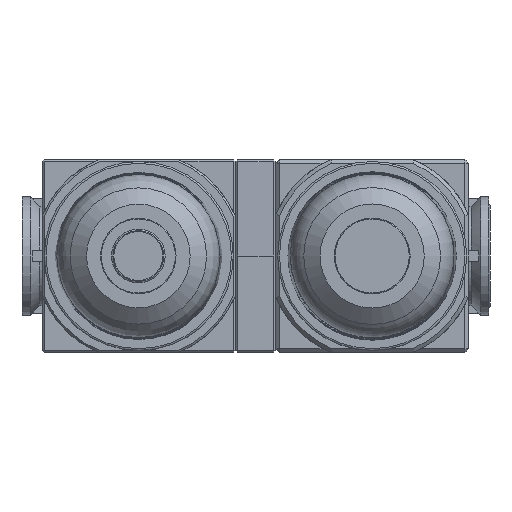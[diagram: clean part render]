
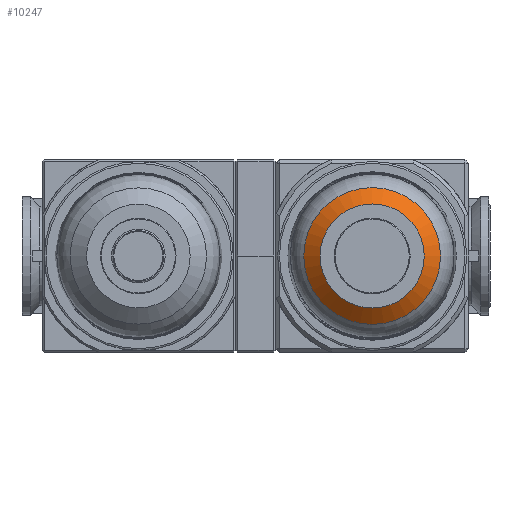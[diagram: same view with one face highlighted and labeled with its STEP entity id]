
A CAD part, front view. The second image highlights one B-rep face of the part: STEP entity #10247.
In plain terms, the highlighted conical face has half-angle 50 degrees and reference radius 14.05 mm.
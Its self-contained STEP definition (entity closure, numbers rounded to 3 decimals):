
#3905 = ORIENTED_EDGE ( 'NONE', *, *, #37726, .T. ) ;
#5210 = FACE_OUTER_BOUND ( 'NONE', #43346, .T. ) ;
#5304 = CARTESIAN_POINT ( 'NONE',  ( 0., -123.004, 18.455 ) ) ;
#5939 = CARTESIAN_POINT ( 'NONE',  ( 0., -126.7, 14.05 ) ) ;
#6467 = CARTESIAN_POINT ( 'NONE',  ( 0., -126.7, 0. ) ) ;
#9035 = AXIS2_PLACEMENT_3D ( 'NONE', #11557, #33419, #36967 ) ;
#10150 = AXIS2_PLACEMENT_3D ( 'NONE', #19683, #45260, #23392 ) ;
#10184 = DIRECTION ( 'NONE',  ( 0., 0., 1. ) ) ;
#10247 = ADVANCED_FACE ( 'NONE', ( #43020, #5210 ), #32118, .T. ) ;
#11557 = CARTESIAN_POINT ( 'NONE',  ( 0., -126.7, 0. ) ) ;
#19683 = CARTESIAN_POINT ( 'NONE',  ( 0., -123.004, 0. ) ) ;
#23392 = DIRECTION ( 'NONE',  ( 0., 0., 1. ) ) ;
#26578 = EDGE_CURVE ( 'NONE', #27555, #27555, #40293, .T. ) ;
#27555 = VERTEX_POINT ( 'NONE', #5304 ) ;
#28883 = EDGE_LOOP ( 'NONE', ( #3905 ) ) ;
#32072 = DIRECTION ( 'NONE',  ( 0., 1., 0. ) ) ;
#32118 = CONICAL_SURFACE ( 'NONE', #9035, 14.05, 0.873 ) ;
#32554 = ORIENTED_EDGE ( 'NONE', *, *, #26578, .F. ) ;
#33419 = DIRECTION ( 'NONE',  ( 0., 1., 0. ) ) ;
#35231 = CIRCLE ( 'NONE', #40424, 14.05 ) ;
#36967 = DIRECTION ( 'NONE',  ( 0., 0., 1. ) ) ;
#37726 = EDGE_CURVE ( 'NONE', #44070, #44070, #35231, .T. ) ;
#40293 = CIRCLE ( 'NONE', #10150, 18.455 ) ;
#40424 = AXIS2_PLACEMENT_3D ( 'NONE', #6467, #32072, #10184 ) ;
#43020 = FACE_BOUND ( 'NONE', #28883, .T. ) ;
#43346 = EDGE_LOOP ( 'NONE', ( #32554 ) ) ;
#44070 = VERTEX_POINT ( 'NONE', #5939 ) ;
#45260 = DIRECTION ( 'NONE',  ( 0., 1., 0. ) ) ;
